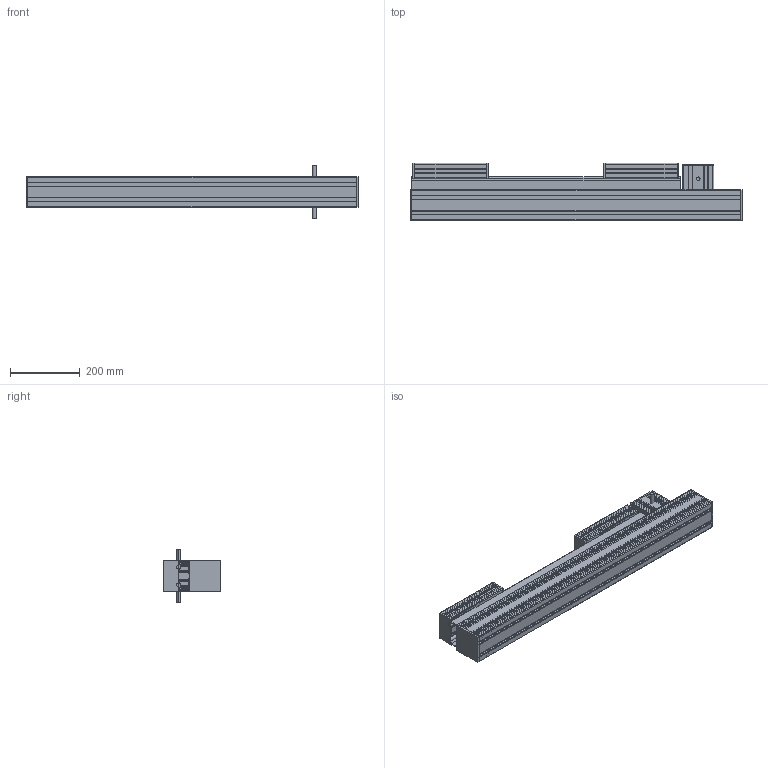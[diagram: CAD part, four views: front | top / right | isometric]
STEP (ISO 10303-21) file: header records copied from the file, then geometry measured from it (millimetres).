
FILE_DESCRIPTION (( 'STEP AP214' ), '1' );
FILE_NAME ('FGLA 950L.step', '2017-04-05T08:04:57', ( '' ), ( '' ), 'SwSTEP 2.0', 'SolidWorks 2015', '' );
FILE_SCHEMA (( 'AUTOMOTIVE_DESIGN' ));
Length unit declared in the file: millimetre
Products named in the file (1): FGLA 950L
Bounding box: 950 x 164 x 154 mm (x, y, z)
Volume: 2349782 mm3; surface area: 1931024.6 mm2
Topology: 14 solids, 14 shells, 1842 faces, 5442 edges, 3628 vertices
Faces by surface type: cylinder 972, plane 870
Entity records: 82583 total; most frequent: DIRECTION 11072, CARTESIAN_POINT 10913, ORIENTED_EDGE 10884, EDGE_CURVE 5442, AXIS2_PLACEMENT_3D 3787, VERTEX_POINT 3628, LINE 3498, VECTOR 3498
